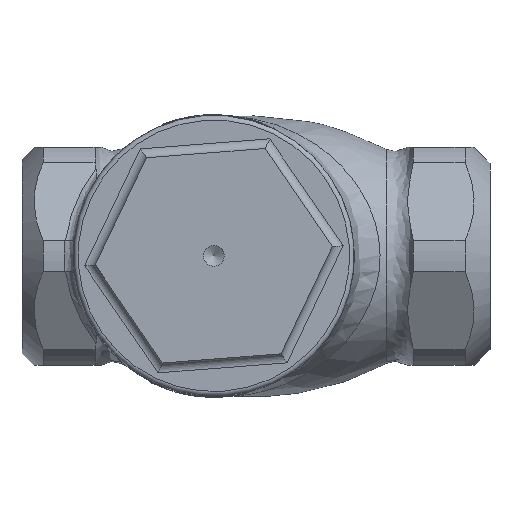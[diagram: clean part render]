
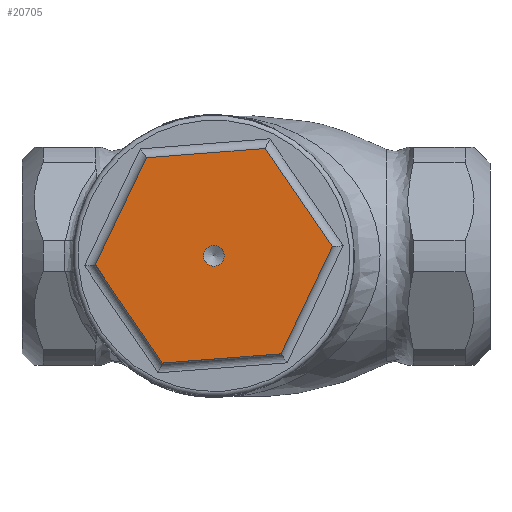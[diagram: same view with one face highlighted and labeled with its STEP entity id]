
A CAD part, top view. The second image highlights one B-rep face of the part: STEP entity #20705.
In plain terms, the highlighted planar face has unit normal (0, 0, 1).
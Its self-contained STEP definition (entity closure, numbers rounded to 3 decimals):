
#20639=CARTESIAN_POINT('',(-29.5,0.,33.3));
#20640=DIRECTION('',(0.0,0.0,1.0));
#20641=DIRECTION('',(0.825,0.566,0.0));
#20642=AXIS2_PLACEMENT_3D('',#20639,#20640,#20641);
#20643=PLANE('',#20642);
#20644=CARTESIAN_POINT('',(-24.022,11.46,33.3));
#20645=VERTEX_POINT('',#20644);
#20646=CARTESIAN_POINT('',(-16.837,0.986,33.3));
#20647=VERTEX_POINT('',#20646);
#20648=CARTESIAN_POINT('',(-24.022,11.46,33.3));
#20649=DIRECTION('',(0.566,-0.825,0.0));
#20650=VECTOR('',#20649,12.702);
#20651=LINE('',#20648,#20650);
#20652=EDGE_CURVE('',#20645,#20647,#20651,.T.);
#20653=ORIENTED_EDGE('',*,*,#20652,.F.);
#20654=CARTESIAN_POINT('',(-36.686,10.474,33.3));
#20655=VERTEX_POINT('',#20654);
#20656=CARTESIAN_POINT('',(-36.686,10.474,33.3));
#20657=DIRECTION('',(0.997,0.078,0.0));
#20658=VECTOR('',#20657,12.702);
#20659=LINE('',#20656,#20658);
#20660=EDGE_CURVE('',#20655,#20645,#20659,.T.);
#20661=ORIENTED_EDGE('',*,*,#20660,.F.);
#20662=CARTESIAN_POINT('',(-42.163,-0.986,33.3));
#20663=VERTEX_POINT('',#20662);
#20664=CARTESIAN_POINT('',(-42.163,-0.986,33.3));
#20665=DIRECTION('',(0.431,0.902,0.0));
#20666=VECTOR('',#20665,12.702);
#20667=LINE('',#20664,#20666);
#20668=EDGE_CURVE('',#20663,#20655,#20667,.T.);
#20669=ORIENTED_EDGE('',*,*,#20668,.F.);
#20670=CARTESIAN_POINT('',(-34.978,-11.46,33.3));
#20671=VERTEX_POINT('',#20670);
#20672=CARTESIAN_POINT('',(-34.978,-11.46,33.3));
#20673=DIRECTION('',(-0.566,0.825,0.0));
#20674=VECTOR('',#20673,12.702);
#20675=LINE('',#20672,#20674);
#20676=EDGE_CURVE('',#20671,#20663,#20675,.T.);
#20677=ORIENTED_EDGE('',*,*,#20676,.F.);
#20678=CARTESIAN_POINT('',(-22.314,-10.474,33.3));
#20679=VERTEX_POINT('',#20678);
#20680=CARTESIAN_POINT('',(-22.314,-10.474,33.3));
#20681=DIRECTION('',(-0.997,-0.078,0.0));
#20682=VECTOR('',#20681,12.702);
#20683=LINE('',#20680,#20682);
#20684=EDGE_CURVE('',#20679,#20671,#20683,.T.);
#20685=ORIENTED_EDGE('',*,*,#20684,.F.);
#20686=CARTESIAN_POINT('',(-16.837,0.986,33.3));
#20687=DIRECTION('',(-0.431,-0.902,0.0));
#20688=VECTOR('',#20687,12.702);
#20689=LINE('',#20686,#20688);
#20690=EDGE_CURVE('',#20647,#20679,#20689,.T.);
#20691=ORIENTED_EDGE('',*,*,#20690,.F.);
#20692=EDGE_LOOP('',(#20653,#20661,#20669,#20677,#20685,#20691));
#20693=FACE_OUTER_BOUND('',#20692,.T.);
#20694=CARTESIAN_POINT('',(-28.593,0.622,33.3));
#20695=VERTEX_POINT('',#20694);
#20696=CARTESIAN_POINT('',(-29.5,0.,33.3));
#20697=DIRECTION('',(0.0,0.0,-1.));
#20698=DIRECTION('',(0.825,0.566,0.0));
#20699=AXIS2_PLACEMENT_3D('',#20696,#20697,#20698);
#20700=CIRCLE('',#20699,1.1);
#20701=EDGE_CURVE('',#20695,#20695,#20700,.T.);
#20702=ORIENTED_EDGE('',*,*,#20701,.T.);
#20703=EDGE_LOOP('',(#20702));
#20704=FACE_BOUND('',#20703,.T.);
#20705=ADVANCED_FACE('',(#20693,#20704),#20643,.T.);
